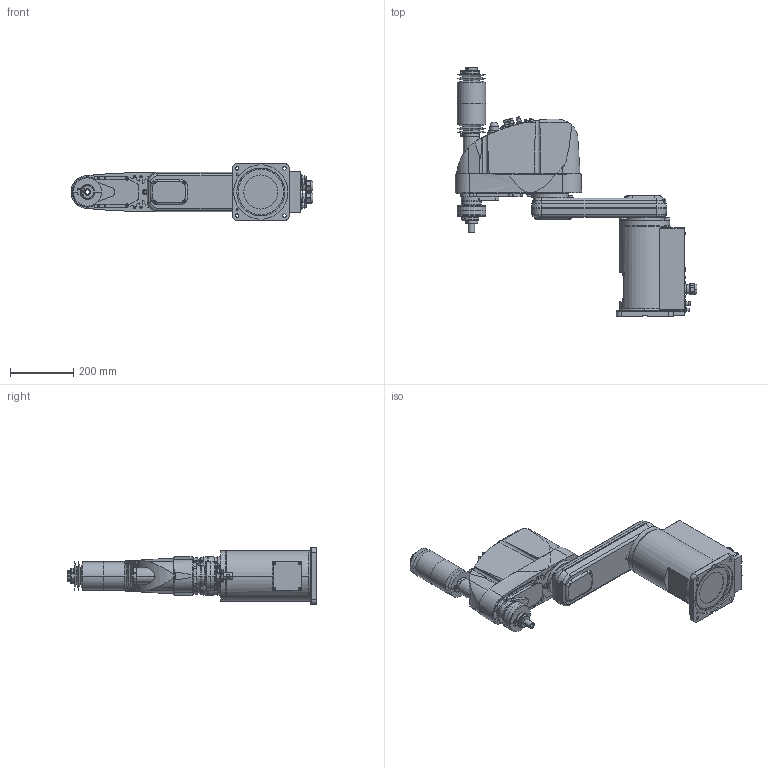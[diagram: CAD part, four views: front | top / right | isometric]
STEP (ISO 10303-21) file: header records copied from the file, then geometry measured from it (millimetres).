
FILE_DESCRIPTION( ( '' ), '1' );
FILE_NAME( '//expscmdclustefs.cadenas.external/client_exchange/iodir/jobs/output/wkb51534812_no0/STEP/G6_551C_2_03.stp', '2012-11-23T09:08:56', ( '' ), ( '' ), ' ', ' ', ' ' );
FILE_SCHEMA( ( 'CONFIG_CONTROL_DESIGN' ) );
Length unit declared in the file: millimetre
Products named in the file (8): 1; 2; 3; 4; 5; 6; 7; 8
Bounding box: 767.5 x 792 x 180 mm (x, y, z)
Volume: 21173357.1 mm3; surface area: 1084406.3 mm2
Topology: 8 solids, 8 shells, 1767 faces, 4309 edges, 2762 vertices
Faces by surface type: plane 892, cylinder 583, cone 224, torus 67, sphere 1
Entity records: 55034 total; most frequent: CARTESIAN_POINT 12067, DIRECTION 9244, ORIENTED_EDGE 8566, EDGE_CURVE 4283, AXIS2_PLACEMENT_3D 3367, VERTEX_POINT 2762, LINE 2510, VECTOR 2510
